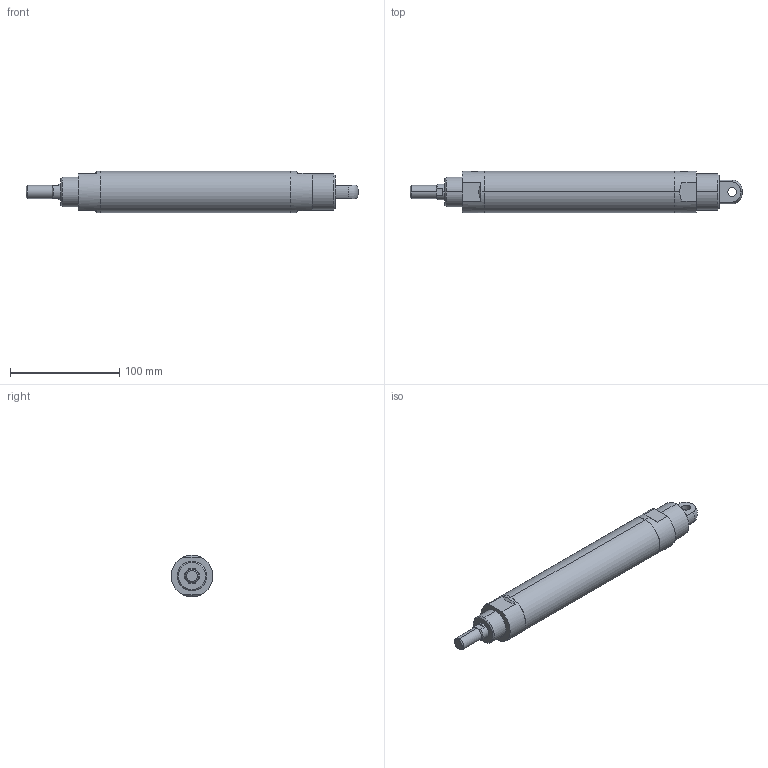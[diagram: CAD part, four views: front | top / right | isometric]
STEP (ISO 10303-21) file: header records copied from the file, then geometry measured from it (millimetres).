
FILE_DESCRIPTION (( 'STEP AP203' ), '1' );
FILE_NAME ('J#2-32-125-C.STEP', '2016-03-08T07:38:30', ( '' ), ( '' ), 'SwSTEP 2.0', 'SolidWorks 2014', '' );
FILE_SCHEMA (( 'CONFIG_CONTROL_DESIGN' ));
Length unit declared in the file: millimetre
Products named in the file (1): J#2-32-125-C
Bounding box: 304 x 38 x 38 mm (x, y, z)
Volume: 269487 mm3; surface area: 34727.4 mm2
Topology: 1 solids, 1 shells, 59 faces, 138 edges, 85 vertices
Faces by surface type: cylinder 22, plane 20, cone 15, torus 2
Entity records: 1996 total; most frequent: CARTESIAN_POINT 574, DIRECTION 293, ORIENTED_EDGE 268, EDGE_CURVE 134, AXIS2_PLACEMENT_3D 118, VERTEX_POINT 85, EDGE_LOOP 69, ADVANCED_FACE 59
